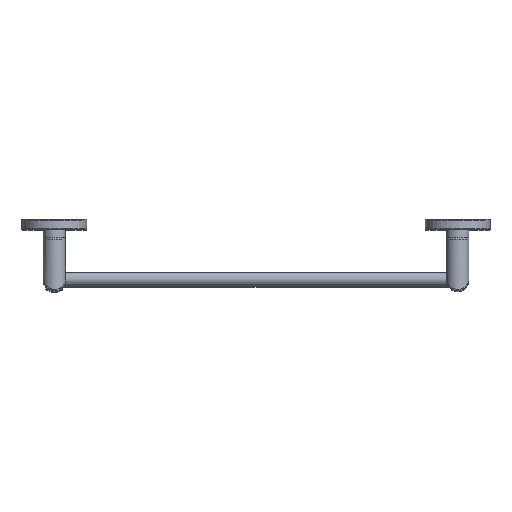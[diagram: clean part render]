
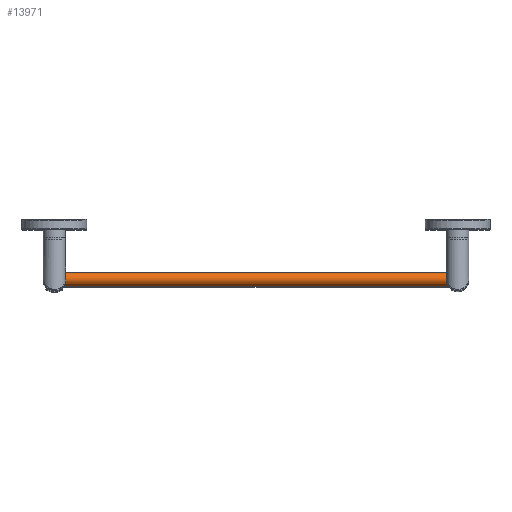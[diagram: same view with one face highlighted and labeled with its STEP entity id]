
A CAD part, top view. The second image highlights one B-rep face of the part: STEP entity #13971.
In plain terms, the highlighted cylindrical face has radius 10 mm (diameter 20 mm), a full revolution.
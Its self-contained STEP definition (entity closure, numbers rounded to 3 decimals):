
#375=CIRCLE('',#14876,10.);
#376=CIRCLE('',#14877,10.);
#3368=ORIENTED_EDGE('',*,*,#7124,.T.);
#3369=ORIENTED_EDGE('',*,*,#7125,.F.);
#7124=EDGE_CURVE('',#9047,#9047,#375,.T.);
#7125=EDGE_CURVE('',#9048,#9048,#376,.T.);
#9047=VERTEX_POINT('',#21079);
#9048=VERTEX_POINT('',#21081);
#10833=EDGE_LOOP('',(#3368));
#10834=EDGE_LOOP('',(#3369));
#11875=FACE_BOUND('',#10833,.T.);
#11876=FACE_BOUND('',#10834,.T.);
#12823=CYLINDRICAL_SURFACE('',#14875,10.);
#13971=ADVANCED_FACE('',(#11875,#11876),#12823,.T.);
#14875=AXIS2_PLACEMENT_3D('',#21077,#16497,#16498);
#14876=AXIS2_PLACEMENT_3D('',#21078,#16499,#16500);
#14877=AXIS2_PLACEMENT_3D('',#21080,#16501,#16502);
#16497=DIRECTION('',(-1.,0.,0.));
#16498=DIRECTION('',(0.,0.,1.));
#16499=DIRECTION('',(-1.,0.,0.));
#16500=DIRECTION('',(0.,1.,0.));
#16501=DIRECTION('',(-1.,0.,0.));
#16502=DIRECTION('',(0.,1.,0.));
#21077=CARTESIAN_POINT('',(274.,0.,0.));
#21078=CARTESIAN_POINT('',(274.,0.,0.));
#21079=CARTESIAN_POINT('',(274.,10.,0.));
#21080=CARTESIAN_POINT('',(-274.,0.,0.));
#21081=CARTESIAN_POINT('',(-274.,10.,0.));
